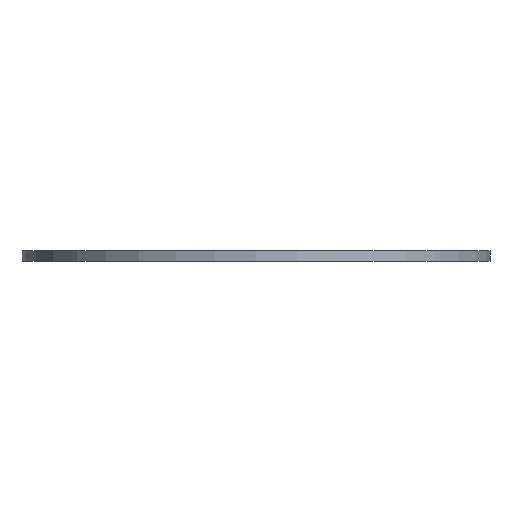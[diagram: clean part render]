
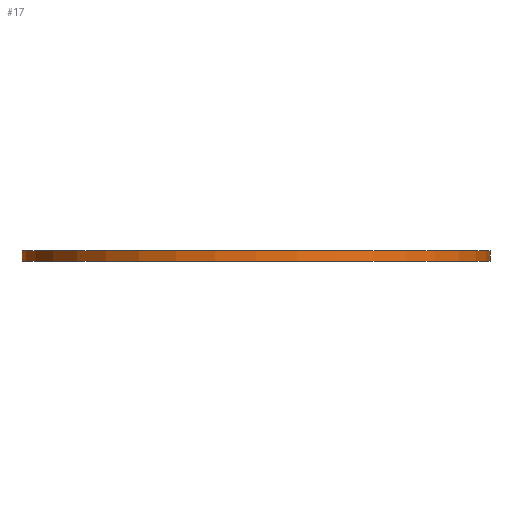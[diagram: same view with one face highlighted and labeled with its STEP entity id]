
A CAD part, front view. The second image highlights one B-rep face of the part: STEP entity #17.
In plain terms, the highlighted cylindrical face has radius 68 mm (diameter 136 mm), a full revolution.
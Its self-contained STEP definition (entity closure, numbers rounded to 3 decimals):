
#17 = ADVANCED_FACE('',(#18),#31,.T.);
#18 = FACE_BOUND('',#19,.F.);
#19 = EDGE_LOOP('',(#20,#54,#77,#108));
#20 = ORIENTED_EDGE('',*,*,#21,.F.);
#21 = EDGE_CURVE('',#22,#22,#24,.T.);
#22 = VERTEX_POINT('',#23);
#23 = CARTESIAN_POINT('',(68.,0.,0.));
#24 = SURFACE_CURVE('',#25,(#30,#42),.PCURVE_S1.);
#25 = CIRCLE('',#26,68.);
#26 = AXIS2_PLACEMENT_3D('',#27,#28,#29);
#27 = CARTESIAN_POINT('',(0.,0.,0.));
#28 = DIRECTION('',(0.,0.,1.));
#29 = DIRECTION('',(1.,0.,0.));
#30 = PCURVE('',#31,#36);
#31 = CYLINDRICAL_SURFACE('',#32,68.);
#32 = AXIS2_PLACEMENT_3D('',#33,#34,#35);
#33 = CARTESIAN_POINT('',(0.,0.,0.));
#34 = DIRECTION('',(-0.,-0.,-1.));
#35 = DIRECTION('',(1.,0.,0.));
#36 = DEFINITIONAL_REPRESENTATION('',(#37),#41);
#37 = LINE('',#38,#39);
#38 = CARTESIAN_POINT('',(-0.,0.));
#39 = VECTOR('',#40,1.);
#40 = DIRECTION('',(-1.,0.));
#41 = ( GEOMETRIC_REPRESENTATION_CONTEXT(2) 
PARAMETRIC_REPRESENTATION_CONTEXT() REPRESENTATION_CONTEXT('2D SPACE',''
  ) );
#42 = PCURVE('',#43,#48);
#43 = PLANE('',#44);
#44 = AXIS2_PLACEMENT_3D('',#45,#46,#47);
#45 = CARTESIAN_POINT('',(0.,0.,0.));
#46 = DIRECTION('',(0.,0.,1.));
#47 = DIRECTION('',(1.,0.,-0.));
#48 = DEFINITIONAL_REPRESENTATION('',(#49),#53);
#49 = CIRCLE('',#50,68.);
#50 = AXIS2_PLACEMENT_2D('',#51,#52);
#51 = CARTESIAN_POINT('',(0.,0.));
#52 = DIRECTION('',(1.,0.));
#53 = ( GEOMETRIC_REPRESENTATION_CONTEXT(2) 
PARAMETRIC_REPRESENTATION_CONTEXT() REPRESENTATION_CONTEXT('2D SPACE',''
  ) );
#54 = ORIENTED_EDGE('',*,*,#55,.T.);
#55 = EDGE_CURVE('',#22,#56,#58,.T.);
#56 = VERTEX_POINT('',#57);
#57 = CARTESIAN_POINT('',(68.,0.,3.));
#58 = SEAM_CURVE('',#59,(#63,#70),.PCURVE_S1.);
#59 = LINE('',#60,#61);
#60 = CARTESIAN_POINT('',(68.,0.,0.));
#61 = VECTOR('',#62,1.);
#62 = DIRECTION('',(0.,0.,1.));
#63 = PCURVE('',#31,#64);
#64 = DEFINITIONAL_REPRESENTATION('',(#65),#69);
#65 = LINE('',#66,#67);
#66 = CARTESIAN_POINT('',(-6.283,0.));
#67 = VECTOR('',#68,1.);
#68 = DIRECTION('',(-0.,-1.));
#69 = ( GEOMETRIC_REPRESENTATION_CONTEXT(2) 
PARAMETRIC_REPRESENTATION_CONTEXT() REPRESENTATION_CONTEXT('2D SPACE',''
  ) );
#70 = PCURVE('',#31,#71);
#71 = DEFINITIONAL_REPRESENTATION('',(#72),#76);
#72 = LINE('',#73,#74);
#73 = CARTESIAN_POINT('',(-0.,0.));
#74 = VECTOR('',#75,1.);
#75 = DIRECTION('',(-0.,-1.));
#76 = ( GEOMETRIC_REPRESENTATION_CONTEXT(2) 
PARAMETRIC_REPRESENTATION_CONTEXT() REPRESENTATION_CONTEXT('2D SPACE',''
  ) );
#77 = ORIENTED_EDGE('',*,*,#78,.F.);
#78 = EDGE_CURVE('',#56,#56,#79,.T.);
#79 = SURFACE_CURVE('',#80,(#85,#92),.PCURVE_S1.);
#80 = CIRCLE('',#81,68.);
#81 = AXIS2_PLACEMENT_3D('',#82,#83,#84);
#82 = CARTESIAN_POINT('',(0.,0.,3.));
#83 = DIRECTION('',(0.,0.,-1.));
#84 = DIRECTION('',(1.,0.,0.));
#85 = PCURVE('',#31,#86);
#86 = DEFINITIONAL_REPRESENTATION('',(#87),#91);
#87 = LINE('',#88,#89);
#88 = CARTESIAN_POINT('',(-6.283,-3.));
#89 = VECTOR('',#90,1.);
#90 = DIRECTION('',(1.,-0.));
#91 = ( GEOMETRIC_REPRESENTATION_CONTEXT(2) 
PARAMETRIC_REPRESENTATION_CONTEXT() REPRESENTATION_CONTEXT('2D SPACE',''
  ) );
#92 = PCURVE('',#93,#98);
#93 = PLANE('',#94);
#94 = AXIS2_PLACEMENT_3D('',#95,#96,#97);
#95 = CARTESIAN_POINT('',(-72.,-72.,3.));
#96 = DIRECTION('',(0.,0.,1.));
#97 = DIRECTION('',(1.,0.,0.));
#98 = DEFINITIONAL_REPRESENTATION('',(#99),#107);
#99 = ( BOUNDED_CURVE() B_SPLINE_CURVE(2,(#100,#101,#102,#103,#104,#105,
#106),.UNSPECIFIED.,.T.,.F.) B_SPLINE_CURVE_WITH_KNOTS((1,2,2,2,2,1),(
    -2.094,0.,2.094,4.189,6.283,
8.378),.UNSPECIFIED.) CURVE() GEOMETRIC_REPRESENTATION_ITEM() 
RATIONAL_B_SPLINE_CURVE((1.,0.5,1.,0.5,1.,0.5,1.)) REPRESENTATION_ITEM(
  '') );
#100 = CARTESIAN_POINT('',(140.,72.));
#101 = CARTESIAN_POINT('',(140.,-45.779));
#102 = CARTESIAN_POINT('',(38.,13.11));
#103 = CARTESIAN_POINT('',(-64.,72.));
#104 = CARTESIAN_POINT('',(38.,130.89));
#105 = CARTESIAN_POINT('',(140.,189.779));
#106 = CARTESIAN_POINT('',(140.,72.));
#107 = ( GEOMETRIC_REPRESENTATION_CONTEXT(2) 
PARAMETRIC_REPRESENTATION_CONTEXT() REPRESENTATION_CONTEXT('2D SPACE',''
  ) );
#108 = ORIENTED_EDGE('',*,*,#55,.F.);
